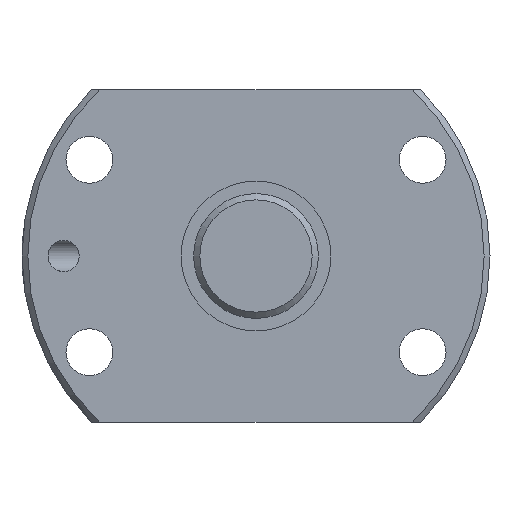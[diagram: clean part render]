
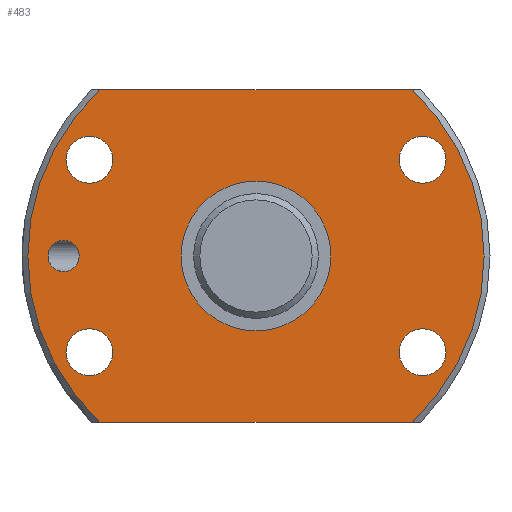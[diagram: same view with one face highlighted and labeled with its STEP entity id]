
A CAD part, left-side view. The second image highlights one B-rep face of the part: STEP entity #483.
In plain terms, the highlighted planar face has unit normal (-1, 0, 0).
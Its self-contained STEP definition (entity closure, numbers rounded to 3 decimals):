
#35=LINE('',#860,#43);
#36=LINE('',#864,#44);
#43=VECTOR('',#673,1000.);
#44=VECTOR('',#676,1000.);
#68=PLANE('',#560);
#111=ORIENTED_EDGE('',*,*,#214,.T.);
#112=ORIENTED_EDGE('',*,*,#215,.T.);
#113=ORIENTED_EDGE('',*,*,#216,.F.);
#114=ORIENTED_EDGE('',*,*,#217,.F.);
#115=ORIENTED_EDGE('',*,*,#218,.F.);
#116=ORIENTED_EDGE('',*,*,#200,.F.);
#117=ORIENTED_EDGE('',*,*,#219,.T.);
#118=ORIENTED_EDGE('',*,*,#220,.T.);
#119=ORIENTED_EDGE('',*,*,#221,.T.);
#120=ORIENTED_EDGE('',*,*,#222,.T.);
#200=EDGE_CURVE('',#253,#254,#296,.T.);
#214=EDGE_CURVE('',#266,#266,#302,.T.);
#215=EDGE_CURVE('',#267,#267,#303,.T.);
#216=EDGE_CURVE('',#268,#253,#35,.T.);
#217=EDGE_CURVE('',#269,#268,#304,.T.);
#218=EDGE_CURVE('',#254,#269,#36,.T.);
#219=EDGE_CURVE('',#270,#270,#305,.T.);
#220=EDGE_CURVE('',#271,#271,#306,.T.);
#221=EDGE_CURVE('',#272,#272,#307,.T.);
#222=EDGE_CURVE('',#273,#273,#308,.T.);
#253=VERTEX_POINT('',#802);
#254=VERTEX_POINT('',#804);
#266=VERTEX_POINT('',#857);
#267=VERTEX_POINT('',#859);
#268=VERTEX_POINT('',#861);
#269=VERTEX_POINT('',#863);
#270=VERTEX_POINT('',#866);
#271=VERTEX_POINT('',#868);
#272=VERTEX_POINT('',#870);
#273=VERTEX_POINT('',#872);
#296=CIRCLE('',#548,21.938);
#302=CIRCLE('',#561,7.2);
#303=CIRCLE('',#562,1.5);
#304=CIRCLE('',#563,21.938);
#305=CIRCLE('',#564,2.25);
#306=CIRCLE('',#565,2.25);
#307=CIRCLE('',#566,2.25);
#308=CIRCLE('',#567,2.25);
#341=EDGE_LOOP('',(#111));
#342=EDGE_LOOP('',(#112));
#343=EDGE_LOOP('',(#113,#114,#115,#116));
#344=EDGE_LOOP('',(#117));
#345=EDGE_LOOP('',(#118));
#346=EDGE_LOOP('',(#119));
#347=EDGE_LOOP('',(#120));
#408=FACE_BOUND('',#341,.T.);
#409=FACE_BOUND('',#342,.T.);
#410=FACE_BOUND('',#343,.T.);
#411=FACE_BOUND('',#344,.T.);
#412=FACE_BOUND('',#345,.T.);
#413=FACE_BOUND('',#346,.T.);
#414=FACE_BOUND('',#347,.T.);
#483=ADVANCED_FACE('',(#408,#409,#410,#411,#412,#413,#414),#68,.T.);
#548=AXIS2_PLACEMENT_3D('',#803,#641,#642);
#560=AXIS2_PLACEMENT_3D('',#855,#667,#668);
#561=AXIS2_PLACEMENT_3D('',#856,#669,#670);
#562=AXIS2_PLACEMENT_3D('',#858,#671,#672);
#563=AXIS2_PLACEMENT_3D('',#862,#674,#675);
#564=AXIS2_PLACEMENT_3D('',#865,#677,#678);
#565=AXIS2_PLACEMENT_3D('',#867,#679,#680);
#566=AXIS2_PLACEMENT_3D('',#869,#681,#682);
#567=AXIS2_PLACEMENT_3D('',#871,#683,#684);
#641=DIRECTION('',(1.,0.,0.));
#642=DIRECTION('',(0.,0.,-1.));
#667=DIRECTION('',(-1.,0.,0.));
#668=DIRECTION('',(0.,0.,1.));
#669=DIRECTION('',(1.,0.,0.));
#670=DIRECTION('',(0.,0.,-1.));
#671=DIRECTION('',(1.,0.,0.));
#672=DIRECTION('',(0.,0.,-1.));
#673=DIRECTION('',(0.,-1.,0.));
#674=DIRECTION('',(1.,0.,0.));
#675=DIRECTION('',(0.,0.,-1.));
#676=DIRECTION('',(0.,1.,0.));
#677=DIRECTION('',(1.,0.,0.));
#678=DIRECTION('',(0.,0.,-1.));
#679=DIRECTION('',(1.,0.,0.));
#680=DIRECTION('',(0.,0.,-1.));
#681=DIRECTION('',(1.,0.,0.));
#682=DIRECTION('',(0.,0.,-1.));
#683=DIRECTION('',(1.,0.,0.));
#684=DIRECTION('',(0.,0.,-1.));
#802=CARTESIAN_POINT('',(0.,-15.008,16.));
#803=CARTESIAN_POINT('',(0.,0.,0.));
#804=CARTESIAN_POINT('',(0.,-15.008,-16.));
#855=CARTESIAN_POINT('',(0.,21.938,0.));
#856=CARTESIAN_POINT('',(0.,0.,0.));
#857=CARTESIAN_POINT('',(0.,0.,-7.2));
#858=CARTESIAN_POINT('',(0.,18.5,0.));
#859=CARTESIAN_POINT('',(0.,18.5,-1.5));
#860=CARTESIAN_POINT('',(0.,22.6,16.));
#861=CARTESIAN_POINT('',(0.,15.008,16.));
#862=CARTESIAN_POINT('',(0.,0.,0.));
#863=CARTESIAN_POINT('',(0.,15.008,-16.));
#864=CARTESIAN_POINT('',(0.,-22.6,-16.));
#865=CARTESIAN_POINT('',(0.,-16.021,9.25));
#866=CARTESIAN_POINT('',(0.,-16.021,7.));
#867=CARTESIAN_POINT('',(0.,-16.021,-9.25));
#868=CARTESIAN_POINT('',(0.,-16.021,-11.5));
#869=CARTESIAN_POINT('',(0.,16.021,-9.25));
#870=CARTESIAN_POINT('',(0.,16.021,-11.5));
#871=CARTESIAN_POINT('',(0.,16.021,9.25));
#872=CARTESIAN_POINT('',(0.,16.021,7.));
